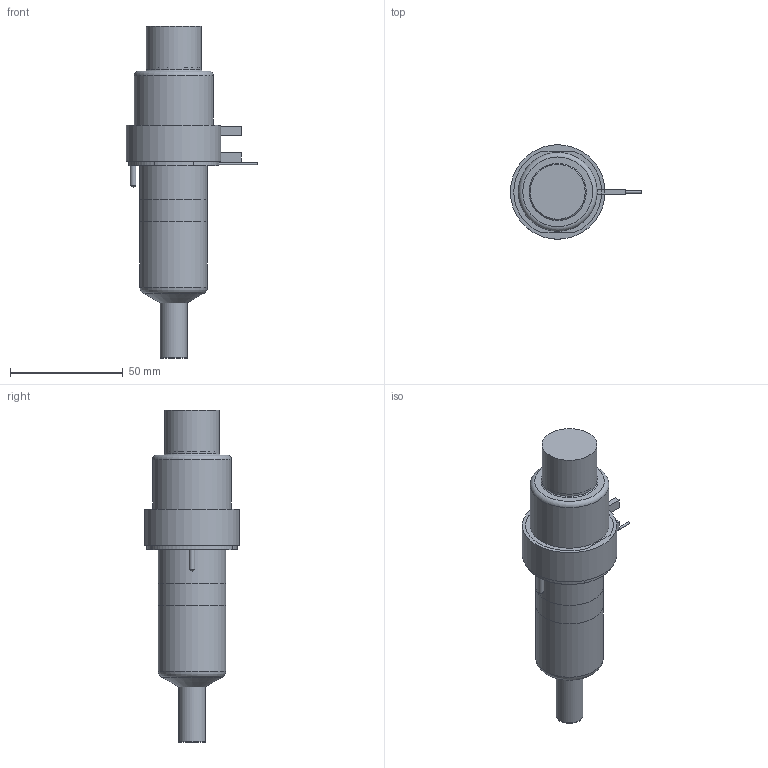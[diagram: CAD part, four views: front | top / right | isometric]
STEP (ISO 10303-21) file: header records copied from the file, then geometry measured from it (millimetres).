
FILE_DESCRIPTION(/* description */ (''),/* implementation_level */ '2;1');
FILE_NAME(/* name */ 'SXYCN16065P7F_200C_a',/* time_stamp */ '2016-03-04T10:25:49+13:00',/* author */ (''),/* organization */ (''),/* preprocessor_version */ 'ST-DEVELOPER v9',/* originating_system */ 'UGS - NX 4.0',/* authorisation */ '');
FILE_SCHEMA (('CONFIG_CONTROL_DESIGN'));
Length unit declared in the file: millimetre
Products named in the file (1): mattD74Dhdnc
Bounding box: 58.25 x 42 x 147.44 mm (x, y, z)
Volume: 178600.4 mm3; surface area: 32246.9 mm2
Topology: 7 solids, 7 shells, 91 faces, 175 edges, 112 vertices
Faces by surface type: plane 45, cylinder 29, torus 8, cone 7, bspline 1, sphere 1
Full cylindrical faces by diameter (mm): 1 x3, 1.8 x1, 2.5 x2, 5 x1, 7 x1, 11.61 x1, 11.995 x2, 14.8 x1, 24 x1, 24.4 x1, 25.4 x1, 30 x2, 31.8 x1, 35 x1, 40 x1, 42 x1
Entity records: 2230 total; most frequent: CARTESIAN_POINT 435, DIRECTION 378, ORIENTED_EDGE 266, AXIS2_PLACEMENT_3D 164, EDGE_LOOP 140, EDGE_CURVE 133, VERTEX_POINT 106, ADVANCED_FACE 91
